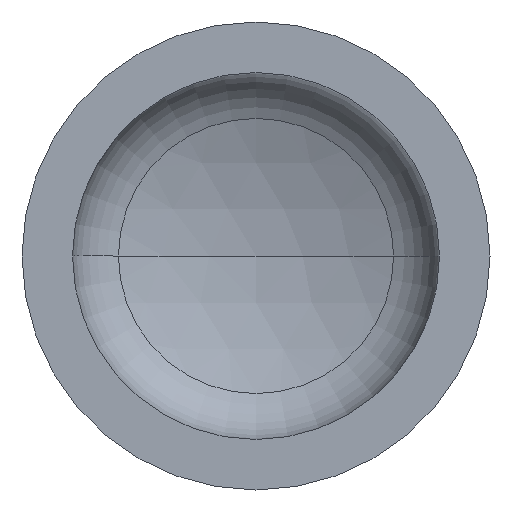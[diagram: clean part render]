
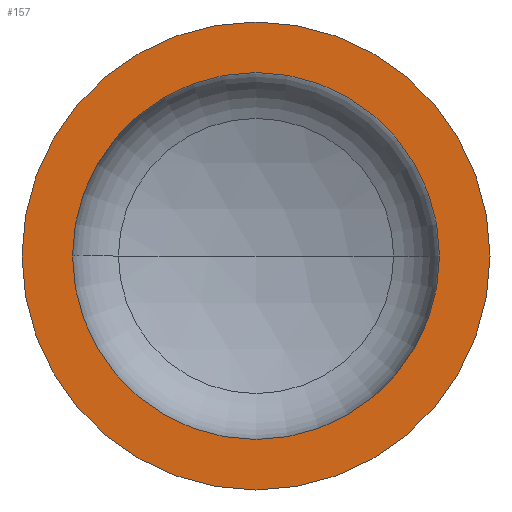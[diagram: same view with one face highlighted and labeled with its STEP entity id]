
A CAD part, front view. The second image highlights one B-rep face of the part: STEP entity #157.
In plain terms, the highlighted planar face has unit normal (0, -1, 0).
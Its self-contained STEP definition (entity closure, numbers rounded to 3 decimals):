
#4 = AXIS2_PLACEMENT_3D ( 'NONE', #187, #282, #395 ) ;
#22 = AXIS2_PLACEMENT_3D ( 'NONE', #180, #199, #200 ) ;
#31 = VERTEX_POINT ( 'NONE', #232 ) ;
#45 = EDGE_LOOP ( 'NONE', ( #85, #299 ) ) ;
#47 = ORIENTED_EDGE ( 'NONE', *, *, #67, .F. ) ;
#51 = AXIS2_PLACEMENT_3D ( 'NONE', #305, #161, #186 ) ;
#52 = AXIS2_PLACEMENT_3D ( 'NONE', #314, #312, #310 ) ;
#57 = AXIS2_PLACEMENT_3D ( 'NONE', #218, #280, #208 ) ;
#61 = EDGE_CURVE ( 'NONE', #166, #131, #190, .T. ) ;
#66 = EDGE_CURVE ( 'NONE', #131, #166, #234, .T. ) ;
#67 = EDGE_CURVE ( 'NONE', #31, #83, #406, .T. ) ;
#83 = VERTEX_POINT ( 'NONE', #173 ) ;
#85 = ORIENTED_EDGE ( 'NONE', *, *, #61, .T. ) ;
#96 = EDGE_LOOP ( 'NONE', ( #47, #138 ) ) ;
#98 = PLANE ( 'NONE',  #22 ) ;
#131 = VERTEX_POINT ( 'NONE', #216 ) ;
#138 = ORIENTED_EDGE ( 'NONE', *, *, #340, .F. ) ;
#157 = ADVANCED_FACE ( 'NONE', ( #272, #334 ), #98, .F. ) ;
#161 = DIRECTION ( 'NONE',  ( 0., -1., 0. ) ) ;
#166 = VERTEX_POINT ( 'NONE', #183 ) ;
#173 = CARTESIAN_POINT ( 'NONE',  ( -392., 0., 0. ) ) ;
#180 = CARTESIAN_POINT ( 'NONE',  ( -500., 0., 0. ) ) ;
#183 = CARTESIAN_POINT ( 'NONE',  ( 500., 0., 0. ) ) ;
#186 = DIRECTION ( 'NONE',  ( 1., 0., 0. ) ) ;
#187 = CARTESIAN_POINT ( 'NONE',  ( 0., 0., 0. ) ) ;
#190 = CIRCLE ( 'NONE', #57, 500. ) ;
#199 = DIRECTION ( 'NONE',  ( 0., 1., 0. ) ) ;
#200 = DIRECTION ( 'NONE',  ( -1., 0., 0. ) ) ;
#208 = DIRECTION ( 'NONE',  ( 1., 0., 0. ) ) ;
#216 = CARTESIAN_POINT ( 'NONE',  ( -500., 0., 0. ) ) ;
#218 = CARTESIAN_POINT ( 'NONE',  ( 0., 0., 0. ) ) ;
#232 = CARTESIAN_POINT ( 'NONE',  ( 392., 0., 0. ) ) ;
#234 = CIRCLE ( 'NONE', #52, 500. ) ;
#272 = FACE_BOUND ( 'NONE', #96, .T. ) ;
#280 = DIRECTION ( 'NONE',  ( 0., -1., 0. ) ) ;
#282 = DIRECTION ( 'NONE',  ( 0., -1., 0. ) ) ;
#299 = ORIENTED_EDGE ( 'NONE', *, *, #66, .T. ) ;
#302 = CIRCLE ( 'NONE', #4, 392. ) ;
#305 = CARTESIAN_POINT ( 'NONE',  ( 0., 0., 0. ) ) ;
#310 = DIRECTION ( 'NONE',  ( 1., 0., 0. ) ) ;
#312 = DIRECTION ( 'NONE',  ( 0., -1., 0. ) ) ;
#314 = CARTESIAN_POINT ( 'NONE',  ( 0., 0., 0. ) ) ;
#334 = FACE_OUTER_BOUND ( 'NONE', #45, .T. ) ;
#340 = EDGE_CURVE ( 'NONE', #83, #31, #302, .T. ) ;
#395 = DIRECTION ( 'NONE',  ( 1., 0., 0. ) ) ;
#406 = CIRCLE ( 'NONE', #51, 392. ) ;
